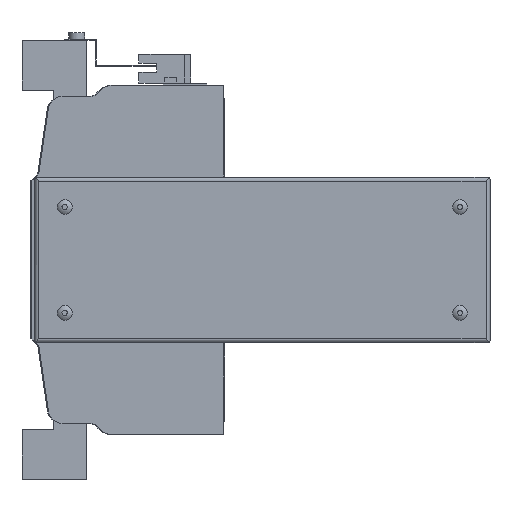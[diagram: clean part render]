
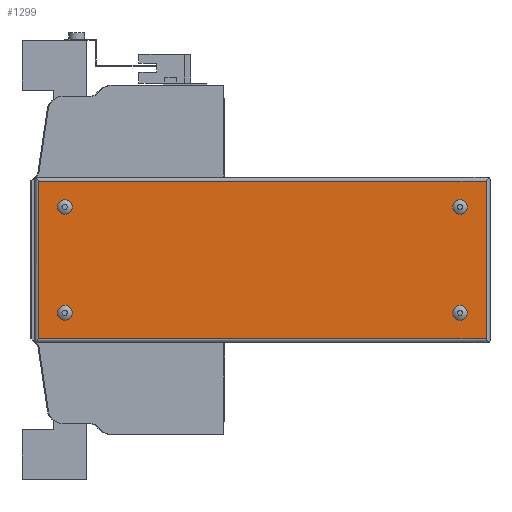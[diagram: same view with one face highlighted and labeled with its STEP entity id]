
A CAD part, left-side view. The second image highlights one B-rep face of the part: STEP entity #1299.
In plain terms, the highlighted planar face has unit normal (-1, 0, 0).
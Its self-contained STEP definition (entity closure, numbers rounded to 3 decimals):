
#1299 = ADVANCED_FACE( '', ( #2789, #2790, #2791, #2792, #2793 ), #2794, .F. );
#2789 = FACE_BOUND( '', #4536, .T. );
#2790 = FACE_BOUND( '', #4537, .T. );
#2791 = FACE_BOUND( '', #4538, .T. );
#2792 = FACE_BOUND( '', #4539, .T. );
#2793 = FACE_OUTER_BOUND( '', #4540, .T. );
#2794 = PLANE( '', #4541 );
#4536 = EDGE_LOOP( '', ( #7967 ) );
#4537 = EDGE_LOOP( '', ( #7968 ) );
#4538 = EDGE_LOOP( '', ( #7969 ) );
#4539 = EDGE_LOOP( '', ( #7970 ) );
#4540 = EDGE_LOOP( '', ( #7971, #7972, #7973, #7974 ) );
#4541 = AXIS2_PLACEMENT_3D( '', #7975, #7976, #7977 );
#7967 = ORIENTED_EDGE( '', *, *, #10774, .F. );
#7968 = ORIENTED_EDGE( '', *, *, #10661, .F. );
#7969 = ORIENTED_EDGE( '', *, *, #11483, .F. );
#7970 = ORIENTED_EDGE( '', *, *, #10954, .F. );
#7971 = ORIENTED_EDGE( '', *, *, #10579, .F. );
#7972 = ORIENTED_EDGE( '', *, *, #11163, .F. );
#7973 = ORIENTED_EDGE( '', *, *, #10969, .T. );
#7974 = ORIENTED_EDGE( '', *, *, #11484, .T. );
#7975 = CARTESIAN_POINT( '', ( -66., -131.95, 40.5 ) );
#7976 = DIRECTION( '', ( 1., 0., 0. ) );
#7977 = DIRECTION( '', ( 0., 0., -1. ) );
#10579 = EDGE_CURVE( '', #12775, #12777, #12778, .T. );
#10661 = EDGE_CURVE( '', #12912, #12912, #12913, .F. );
#10774 = EDGE_CURVE( '', #13098, #13098, #13099, .F. );
#10954 = EDGE_CURVE( '', #13391, #13391, #13392, .F. );
#10969 = EDGE_CURVE( '', #13410, #13411, #13412, .T. );
#11163 = EDGE_CURVE( '', #13410, #12775, #13724, .T. );
#11483 = EDGE_CURVE( '', #14161, #14161, #14162, .F. );
#11484 = EDGE_CURVE( '', #13411, #12777, #14163, .T. );
#12775 = VERTEX_POINT( '', #15853 );
#12777 = VERTEX_POINT( '', #15855 );
#12778 = LINE( '', #15856, #15857 );
#12912 = VERTEX_POINT( '', #16042 );
#12913 = CIRCLE( '', #16043, 3.7 );
#13098 = VERTEX_POINT( '', #16296 );
#13099 = CIRCLE( '', #16297, 3.7 );
#13391 = VERTEX_POINT( '', #16711 );
#13392 = CIRCLE( '', #16712, 3.7 );
#13410 = VERTEX_POINT( '', #16738 );
#13411 = VERTEX_POINT( '', #16739 );
#13412 = LINE( '', #16740, #16741 );
#13724 = LINE( '', #17206, #17207 );
#14161 = VERTEX_POINT( '', #17833 );
#14162 = CIRCLE( '', #17834, 3.7 );
#14163 = LINE( '', #17835, #17836 );
#15853 = CARTESIAN_POINT( '', ( -66., 93.05, 39.5 ) );
#15855 = CARTESIAN_POINT( '', ( -66., -130.95, 39.5 ) );
#15856 = CARTESIAN_POINT( '', ( -66., 228., 39.5 ) );
#15857 = VECTOR( '', #19232, 1000. );
#16042 = CARTESIAN_POINT( '', ( -66., -117.95, -30.2 ) );
#16043 = AXIS2_PLACEMENT_3D( '', #19327, #19328, #19329 );
#16296 = CARTESIAN_POINT( '', ( -66., -117.95, 22.8 ) );
#16297 = AXIS2_PLACEMENT_3D( '', #19467, #19468, #19469 );
#16711 = CARTESIAN_POINT( '', ( -66., 80.05, -30.2 ) );
#16712 = AXIS2_PLACEMENT_3D( '', #19647, #19648, #19649 );
#16738 = CARTESIAN_POINT( '', ( -66., 93.05, -39.5 ) );
#16739 = CARTESIAN_POINT( '', ( -66., -130.95, -39.5 ) );
#16740 = CARTESIAN_POINT( '', ( -66., 228., -39.5 ) );
#16741 = VECTOR( '', #19661, 1000. );
#17206 = CARTESIAN_POINT( '', ( -66., 93.05, -83. ) );
#17207 = VECTOR( '', #19875, 1000. );
#17833 = CARTESIAN_POINT( '', ( -66., 80.05, 22.8 ) );
#17834 = AXIS2_PLACEMENT_3D( '', #20168, #20169, #20170 );
#17835 = CARTESIAN_POINT( '', ( -66., -130.95, -83. ) );
#17836 = VECTOR( '', #20171, 1000. );
#19232 = DIRECTION( '', ( 0., -1., 0. ) );
#19327 = CARTESIAN_POINT( '', ( -66., -117.95, -26.5 ) );
#19328 = DIRECTION( '', ( 1., 0., 0. ) );
#19329 = DIRECTION( '', ( 0., 0., -1. ) );
#19467 = CARTESIAN_POINT( '', ( -66., -117.95, 26.5 ) );
#19468 = DIRECTION( '', ( 1., 0., 0. ) );
#19469 = DIRECTION( '', ( 0., 0., -1. ) );
#19647 = CARTESIAN_POINT( '', ( -66., 80.05, -26.5 ) );
#19648 = DIRECTION( '', ( 1., 0., 0. ) );
#19649 = DIRECTION( '', ( 0., 0., -1. ) );
#19661 = DIRECTION( '', ( 0., -1., 0. ) );
#19875 = DIRECTION( '', ( 0., 0., 1. ) );
#20168 = CARTESIAN_POINT( '', ( -66., 80.05, 26.5 ) );
#20169 = DIRECTION( '', ( 1., 0., 0. ) );
#20170 = DIRECTION( '', ( 0., 0., -1. ) );
#20171 = DIRECTION( '', ( 0., 0., 1. ) );
